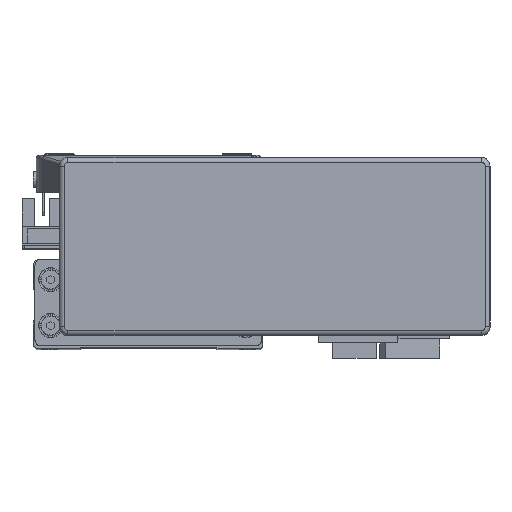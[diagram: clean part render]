
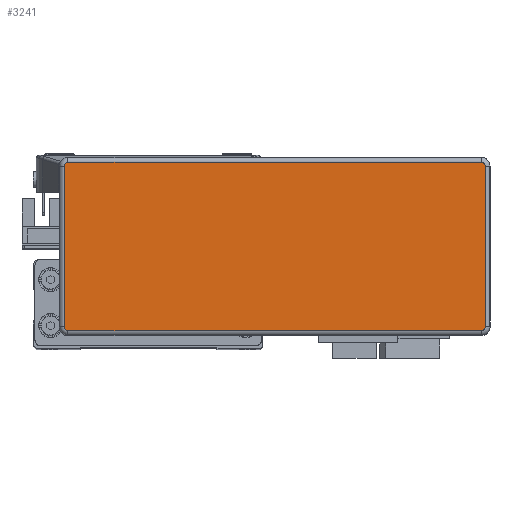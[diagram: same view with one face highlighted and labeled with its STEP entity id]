
A CAD part, top view. The second image highlights one B-rep face of the part: STEP entity #3241.
In plain terms, the highlighted planar face has unit normal (0, 0, 1) as drawn and (0, 0, -1) by its records, which use the part's own axes.
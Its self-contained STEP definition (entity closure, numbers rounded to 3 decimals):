
#3241 = ADVANCED_FACE ( 'NONE', ( #30699 ), #12311, .F. ) ;
#7663 = VERTEX_POINT ( 'NONE', #38829 ) ;
#7664 = VERTEX_POINT ( 'NONE', #38802 ) ;
#7681 = VERTEX_POINT ( 'NONE', #38917 ) ;
#7701 = VERTEX_POINT ( 'NONE', #38885 ) ;
#7721 = VERTEX_POINT ( 'NONE', #38902 ) ;
#7730 = VERTEX_POINT ( 'NONE', #38876 ) ;
#7737 = VERTEX_POINT ( 'NONE', #38877 ) ;
#7768 = VERTEX_POINT ( 'NONE', #38960 ) ;
#12280 = DIRECTION ( 'NONE',  ( 0., 0., 1. ) ) ;
#12309 = DIRECTION ( 'NONE',  ( 1., 0., 0. ) ) ;
#12311 = PLANE ( 'NONE',  #21147 ) ;
#12326 = CARTESIAN_POINT ( 'NONE',  ( 71.995, -27.995, -32.2 ) ) ;
#18760 = ORIENTED_EDGE ( 'NONE', *, *, #34035, .T. ) ;
#20105 = EDGE_CURVE ( 'NONE', #7721, #7737, #31251, .T. ) ;
#21147 = AXIS2_PLACEMENT_3D ( 'NONE', #12326, #12280, #12309 ) ;
#29485 = AXIS2_PLACEMENT_3D ( 'NONE', #41335, #41342, #41360 ) ;
#29486 = AXIS2_PLACEMENT_3D ( 'NONE', #39514, #39453, #41275 ) ;
#29491 = AXIS2_PLACEMENT_3D ( 'NONE', #40422, #40501, #39903 ) ;
#29505 = AXIS2_PLACEMENT_3D ( 'NONE', #41287, #41311, #41309 ) ;
#30699 = FACE_OUTER_BOUND ( 'NONE', #43648, .T. ) ;
#31251 = LINE ( 'NONE', #39379, #31277 ) ;
#31277 = VECTOR ( 'NONE', #39384, 1000. ) ;
#31754 = LINE ( 'NONE', #41156, #31797 ) ;
#31797 = VECTOR ( 'NONE', #41171, 1000. ) ;
#31816 = CIRCLE ( 'NONE', #29485, 1.3 ) ;
#31820 = VECTOR ( 'NONE', #41476, 1000. ) ;
#31823 = LINE ( 'NONE', #41569, #31865 ) ;
#31824 = CIRCLE ( 'NONE', #29491, 1.3 ) ;
#31834 = CIRCLE ( 'NONE', #29505, 1.3 ) ;
#31839 = CIRCLE ( 'NONE', #29486, 1.3 ) ;
#31865 = VECTOR ( 'NONE', #41560, 1000. ) ;
#31871 = LINE ( 'NONE', #41475, #31820 ) ;
#34016 = EDGE_CURVE ( 'NONE', #7664, #7730, #31754, .T. ) ;
#34017 = EDGE_CURVE ( 'NONE', #7701, #7664, #31824, .T. ) ;
#34018 = EDGE_CURVE ( 'NONE', #7737, #7663, #31839, .T. ) ;
#34035 = EDGE_CURVE ( 'NONE', #7730, #7721, #31834, .T. ) ;
#34045 = EDGE_CURVE ( 'NONE', #7768, #7681, #31816, .T. ) ;
#34059 = EDGE_CURVE ( 'NONE', #7663, #7768, #31871, .T. ) ;
#34068 = EDGE_CURVE ( 'NONE', #7681, #7701, #31823, .T. ) ;
#38802 = CARTESIAN_POINT ( 'NONE',  ( -71.995, 29.295, -32.2 ) ) ;
#38829 = CARTESIAN_POINT ( 'NONE',  ( 71.995, -29.295, -32.2 ) ) ;
#38876 = CARTESIAN_POINT ( 'NONE',  ( 71.995, 29.295, -32.2 ) ) ;
#38877 = CARTESIAN_POINT ( 'NONE',  ( 73.295, -27.995, -32.2 ) ) ;
#38885 = CARTESIAN_POINT ( 'NONE',  ( -73.295, 27.995, -32.2 ) ) ;
#38902 = CARTESIAN_POINT ( 'NONE',  ( 73.295, 27.995, -32.2 ) ) ;
#38917 = CARTESIAN_POINT ( 'NONE',  ( -73.295, -27.995, -32.2 ) ) ;
#38960 = CARTESIAN_POINT ( 'NONE',  ( -71.995, -29.295, -32.2 ) ) ;
#39379 = CARTESIAN_POINT ( 'NONE',  ( 73.295, -27.995, -32.2 ) ) ;
#39384 = DIRECTION ( 'NONE',  ( 0., -1., 0. ) ) ;
#39453 = DIRECTION ( 'NONE',  ( 0., 0., -1. ) ) ;
#39514 = CARTESIAN_POINT ( 'NONE',  ( 71.995, -27.995, -32.2 ) ) ;
#39903 = DIRECTION ( 'NONE',  ( 1., 0., 0. ) ) ;
#40422 = CARTESIAN_POINT ( 'NONE',  ( -71.995, 27.995, -32.2 ) ) ;
#40501 = DIRECTION ( 'NONE',  ( 0., 0., -1. ) ) ;
#41156 = CARTESIAN_POINT ( 'NONE',  ( 71.995, 29.295, -32.2 ) ) ;
#41171 = DIRECTION ( 'NONE',  ( 1., 0., 0. ) ) ;
#41275 = DIRECTION ( 'NONE',  ( 1., 0., 0. ) ) ;
#41287 = CARTESIAN_POINT ( 'NONE',  ( 71.995, 27.995, -32.2 ) ) ;
#41309 = DIRECTION ( 'NONE',  ( 1., 0., 0. ) ) ;
#41311 = DIRECTION ( 'NONE',  ( 0., 0., -1. ) ) ;
#41335 = CARTESIAN_POINT ( 'NONE',  ( -71.995, -27.995, -32.2 ) ) ;
#41342 = DIRECTION ( 'NONE',  ( 0., 0., -1. ) ) ;
#41360 = DIRECTION ( 'NONE',  ( 1., 0., 0. ) ) ;
#41475 = CARTESIAN_POINT ( 'NONE',  ( 71.995, -29.295, -32.2 ) ) ;
#41476 = DIRECTION ( 'NONE',  ( -1., 0., 0. ) ) ;
#41560 = DIRECTION ( 'NONE',  ( 0., 1., 0. ) ) ;
#41569 = CARTESIAN_POINT ( 'NONE',  ( -73.295, -27.995, -32.2 ) ) ;
#43530 = ORIENTED_EDGE ( 'NONE', *, *, #34045, .T. ) ;
#43540 = ORIENTED_EDGE ( 'NONE', *, *, #20105, .T. ) ;
#43569 = ORIENTED_EDGE ( 'NONE', *, *, #34059, .T. ) ;
#43579 = ORIENTED_EDGE ( 'NONE', *, *, #34068, .T. ) ;
#43581 = ORIENTED_EDGE ( 'NONE', *, *, #34018, .T. ) ;
#43588 = ORIENTED_EDGE ( 'NONE', *, *, #34017, .T. ) ;
#43630 = ORIENTED_EDGE ( 'NONE', *, *, #34016, .T. ) ;
#43648 = EDGE_LOOP ( 'NONE', ( #43540, #43581, #43569, #43530, #43579, #43588, #43630, #18760 ) ) ;
